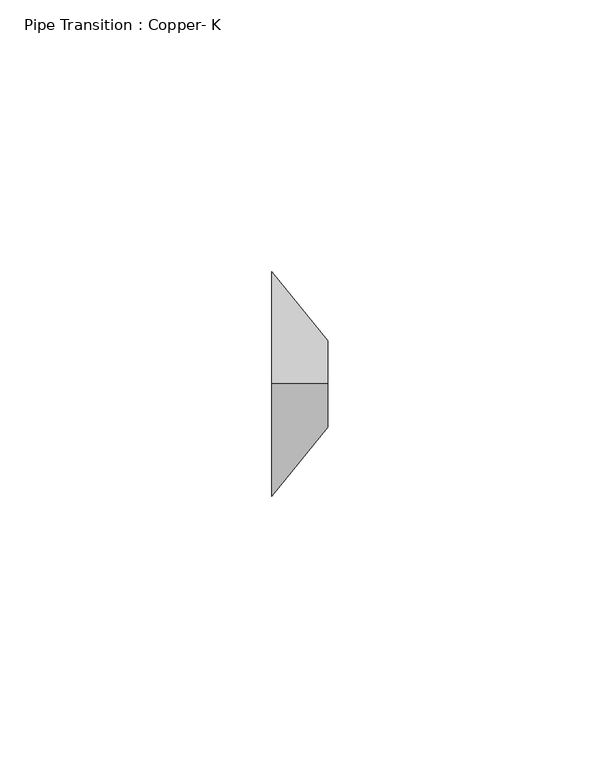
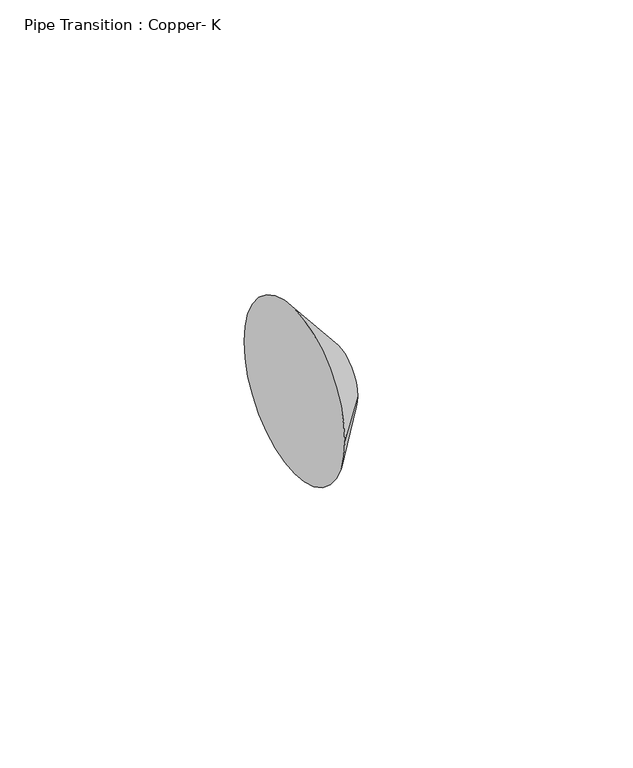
"""IFC4 building model written with IfcOpenShell, lengths in millimetres: pipe fitting geometry, Pipe Transition : Copper- K."""

import ifcopenshell
import ifcopenshell.guid

model = None  # the IFC model being written
_history = None  # IfcOwnerHistory: only IFC2X3 demands one
_inside = {}  # id of a spatial element -> (the spatial element, [elements in it])
_under = {}  # id of a project, library or spatial element -> (it, [spatial elements below it])
_declared = {}  # id of a project -> (the project, [libraries it declares])
_typed = {}  # id of a type object -> (the type object, [elements of that type])
_made_of = {}  # id of a material, layer set ... -> (it, [elements and type objects made of it])


def new_model(schema):
    """Start an empty IFC model of exactly this schema.

    Asked for "IFC4X3", IfcOpenShell would pick the latest addendum, in which some entities
    have other attributes; the version numbers below select the first issue.
    IFC2X3 requires an IfcOwnerHistory on every rooted entity: one is made here for all.
    """
    global model, _history
    if schema == "IFC4X3":
        model = ifcopenshell.file(schema_version=(4, 3, 0, 0))
    else:
        model = ifcopenshell.file(schema=schema)
    _inside.clear()
    _under.clear()
    _declared.clear()
    _typed.clear()
    _made_of.clear()
    _history = None
    if model.schema == "IFC2X3":
        org = make("IfcOrganization", Name="unknown")
        user = make(
            "IfcPersonAndOrganization",
            ThePerson=make("IfcPerson", FamilyName="unknown"),
            TheOrganization=org,
        )
        app = make(
            "IfcApplication",
            ApplicationDeveloper=org,
            Version="unknown",
            ApplicationFullName="unknown",
            ApplicationIdentifier="unknown",
        )
        _history = make(
            "IfcOwnerHistory",
            OwningUser=user,
            OwningApplication=app,
            ChangeAction="ADDED",
            CreationDate=0,
        )
    return model


def make(cls, **values):
    """One entity of the class cls with the attributes given. An attribute that is None is left unset."""
    return model.create_entity(
        cls, **{name: value for name, value in values.items() if value is not None}
    )


def rooted(cls, **values):
    """An entity with a GlobalId (a new one), such as an element, a storey or a relation."""
    return make(cls, GlobalId=ifcopenshell.guid.new(), OwnerHistory=_history, **values)


def si_unit(unit_type, name, prefix=None):
    """IfcSIUnit, for example si_unit("LENGTHUNIT", "METRE", prefix="MILLI")."""
    return make("IfcSIUnit", UnitType=unit_type, Prefix=prefix, Name=name)


def assignment(units):
    """IfcUnitAssignment: the units of a project."""
    return None if units is None else make("IfcUnitAssignment", Units=units)


def point(xyz):
    """IfcCartesianPoint."""
    return None if xyz is None else make("IfcCartesianPoint", Coordinates=xyz)


def direction(xyz):
    """IfcDirection."""
    return None if xyz is None else make("IfcDirection", DirectionRatios=xyz)


def frame(location, z_axis=None, x_axis=None):
    """IfcAxis2Placement3D, a coordinate frame: its origin and axes. An axis left out is left unset."""
    return make(
        "IfcAxis2Placement3D",
        Location=point(location),
        Axis=direction(z_axis),
        RefDirection=direction(x_axis),
    )


def origin():
    """The frame at (0, 0, 0) with its axes left unset."""
    return frame((0.0, 0.0, 0.0))


def place(relative_to, where):
    """IfcLocalPlacement: puts the frame where relative to a parent placement (None: the world)."""
    return make(
        "IfcLocalPlacement", PlacementRelTo=relative_to, RelativePlacement=where
    )


def context(
    kind, dimensions, precision=None, world=None, true_north=None, identifier=None
):
    """IfcGeometricRepresentationContext, for example the 3D "Model" context."""
    return make(
        "IfcGeometricRepresentationContext",
        ContextIdentifier=identifier,
        ContextType=kind,
        CoordinateSpaceDimension=dimensions,
        Precision=precision,
        WorldCoordinateSystem=world,
        TrueNorth=true_north,
    )


def project(units=None, contexts=None):
    """IfcProject with its units and contexts."""
    return rooted(
        "IfcProject",
        Name="project",
        RepresentationContexts=contexts,
        UnitsInContext=assignment(units),
    )


def spatial(cls, under=None, at=None, **own):
    """A site, building, storey or space (cls), placed at a placement, below another one or the project."""
    s = rooted(cls, ObjectPlacement=at, **own)
    if under is not None:
        _under.setdefault(under.id(), (under, []))[1].append(s)
    return s


def polyline(points):
    """IfcPolyline through the points."""
    return make("IfcPolyline", Points=[point(p) for p in points])


def circle_curve(where, radius):
    """IfcCircle in the frame where."""
    return make("IfcCircle", Position=where, Radius=radius)


def shape(context_of_items, identifier, shape_type, items):
    """IfcShapeRepresentation: the items that make up one representation, for example the "Body"."""
    return make(
        "IfcShapeRepresentation",
        ContextOfItems=context_of_items,
        RepresentationIdentifier=identifier,
        RepresentationType=shape_type,
        Items=items,
    )


def source(mapping_origin, context_of_items, identifier, shape_type, items):
    """IfcRepresentationMap: a shape defined once, which mapped items show again and again."""
    return make(
        "IfcRepresentationMap",
        MappingOrigin=mapping_origin,
        MappedRepresentation=shape(context_of_items, identifier, shape_type, items),
    )


def transform(
    local_origin,
    x_axis=None,
    y_axis=None,
    z_axis=None,
    scale=None,
    scale2=None,
    scale3=None,
    uniform=True,
):
    """IfcCartesianTransformationOperator3D, or its non-uniform kind. x_axis, y_axis, z_axis: its Axis1, 2, 3."""
    if uniform:
        return make(
            "IfcCartesianTransformationOperator3D",
            Axis1=direction(x_axis),
            Axis2=direction(y_axis),
            LocalOrigin=point(local_origin),
            Scale=scale,
            Axis3=direction(z_axis),
        )
    return make(
        "IfcCartesianTransformationOperator3DnonUniform",
        Axis1=direction(x_axis),
        Axis2=direction(y_axis),
        LocalOrigin=point(local_origin),
        Scale=scale,
        Axis3=direction(z_axis),
        Scale2=scale2,
        Scale3=scale3,
    )


def mapped(mapping_source, mapping_target):
    """IfcMappedItem: shows the shape of a source again, moved by a transform."""
    return make(
        "IfcMappedItem", MappingSource=mapping_source, MappingTarget=mapping_target
    )


def made_of(thing, what):
    """Note that an element or type object is made of a material, layer set ...; save() writes the relation."""
    if what is not None:
        _made_of.setdefault(what.id(), (what, []))[1].append(thing)
    return thing


def element(
    cls,
    number,
    at=None,
    inside=None,
    cuts=None,
    type_object=None,
    material=None,
    context=None,
    identifier="Body",
    shape_type=None,
    held_by="IfcProductDefinitionShape",
    body=None,
    shapes=None,
    **own,
):
    """One element of the class cls, such as IfcWall. Its Tag is "e" and its number.

    at: its placement. inside: the storey or other place that contains it. cuts: it is an
    opening in that element (IfcRelVoidsElement). A single representation is given by context,
    identifier, shape_type and body (its items); several are given by shapes. held_by: the class
    of the entity that holds the representations. save() writes the other relations.
    """
    e = rooted(cls, Tag="e%d" % number, ObjectPlacement=at, **own)
    if body is not None:
        shapes = [shape(context, identifier, shape_type, body)]
    if shapes is not None:
        e.Representation = make(held_by, Representations=shapes)
    if inside is not None:
        _inside.setdefault(inside.id(), (inside, []))[1].append(e)
    if cuts is not None:
        rooted(
            "IfcRelVoidsElement", RelatingBuildingElement=cuts, RelatedOpeningElement=e
        )
    if type_object is not None:
        _typed.setdefault(type_object.id(), (type_object, []))[1].append(e)
    return made_of(e, material)


def aggregate(whole, parts):
    """IfcRelAggregates: a whole, such as a stair, and the parts it consists of."""
    return rooted("IfcRelAggregates", RelatingObject=whole, RelatedObjects=parts)


def save(model, path):
    """Write the relations noted so far, then the file.

    IfcRelAggregates (storeys below a building ...), IfcRelContainedInSpatialStructure (elements
    in a storey), IfcRelDefinesByType, IfcRelAssociatesMaterial and IfcRelDeclares: one each for
    every whole, place, type object, material and project.
    """
    for whole, parts in _under.values():
        aggregate(whole, parts)
    for where, things in _inside.values():
        rooted(
            "IfcRelContainedInSpatialStructure",
            RelatedElements=things,
            RelatingStructure=where,
        )
    for kind, things in _typed.values():
        rooted("IfcRelDefinesByType", RelatedObjects=things, RelatingType=kind)
    for what, things in _made_of.values():
        rooted("IfcRelAssociatesMaterial", RelatedObjects=things, RelatingMaterial=what)
    for by, libraries in _declared.values():
        rooted("IfcRelDeclares", RelatingContext=by, RelatedDefinitions=libraries)
    model.write(path)


def plane_surface(at):
    """IfcPlane: the flat surface through the origin of the frame at, square to its z axis."""
    return make("IfcPlane", Position=at)


def revolved_surface(curve, axis_point, axis_direction):
    """IfcSurfaceOfRevolution: the curve turned about the line through axis_point along axis_direction."""
    return make(
        "IfcSurfaceOfRevolution",
        SweptCurve=make("IfcArbitraryOpenProfileDef", ProfileType="CURVE", Curve=curve),
        AxisPosition=make("IfcAxis1Placement", Location=point(axis_point), Axis=direction(axis_direction)),
    )


def advanced_brep(points, edges, surfaces, faces):
    """IfcAdvancedBrep: a solid bounded by faces that lie on surfaces and meet in shared edges.

    An edge is (start, end): straight between two places in points (the first is 0);
    or (start, end, curve); or (start, end, curve, False) where it runs against its curve.
    A face is (place in surfaces, loops), or (place, loops, False) where it looks against
    its surface's normal. A loop lists edges by number (the first is 1), with a minus sign
    where the edge is run from its end to its start. The first loop is the outer one.
    """
    corners = [point(p) for p in points]
    vertices = [make("IfcVertexPoint", VertexGeometry=c) for c in corners]
    made = []
    for start, end, *more in edges:
        made.append(
            make(
                "IfcEdgeCurve",
                EdgeStart=vertices[start],
                EdgeEnd=vertices[end],
                EdgeGeometry=more[0] if more else make("IfcPolyline", Points=[corners[start], corners[end]]),
                SameSense=more[1] if len(more) > 1 else True,
            )
        )
    hull = []
    for where, loops, *sense in faces:
        bounds = []
        for j, loop in enumerate(loops):
            ring = [make("IfcOrientedEdge", EdgeElement=made[abs(k) - 1], Orientation=k > 0) for k in loop]
            bounds.append(
                make(
                    "IfcFaceOuterBound" if j == 0 else "IfcFaceBound",
                    Bound=make("IfcEdgeLoop", EdgeList=ring),
                    Orientation=True,
                )
            )
        hull.append(make("IfcAdvancedFace", Bounds=bounds, FaceSurface=surfaces[where], SameSense=sense[0] if sense else True))
    return make("IfcAdvancedBrep", Outer=make("IfcClosedShell", CfsFaces=hull))


def pipe_transition_copper_k_6d118978(model_context):
    return source(origin(), model_context, "Body", "AdvancedBrep", [
        advanced_brep(
        [(10.31875, 0.0, 7.9375), (10.31875, -7.9375, 0.0), (10.31875, 0.0, -7.9375), (10.31875, 7.9375, 0.0), (0.0, 0.0, 20.6375), (0.0, 20.6375, 0.0), (0.0, 0.0, -20.6375), (0.0, -20.6375, 0.0)],
        [
            (0, 1, circle_curve(frame((10.31875, 0.0, 0.0), z_axis=(1.0, 0.0, 0.0), x_axis=(0.0, 0.0, 1.0)), 7.9375)),
            (1, 2, circle_curve(frame((10.31875, 0.0, 0.0), z_axis=(1.0, 0.0, 0.0), x_axis=(0.0, -1.0, 0.0)), 7.9375)),
            (2, 3, circle_curve(frame((10.31875, 0.0, 0.0), z_axis=(1.0, 0.0, 0.0), x_axis=(0.0, 0.0, -1.0)), 7.9375)),
            (3, 0, circle_curve(frame((10.31875, 0.0, 0.0), z_axis=(1.0, 0.0, 0.0), x_axis=(0.0, 1.0, 0.0)), 7.9375)),
            (4, 5, circle_curve(frame((0.0, 0.0, 0.0), z_axis=(-1.0, 0.0, 0.0), x_axis=(0.0, 1.0, 0.0)), 20.6375)),
            (5, 6, circle_curve(frame((0.0, 0.0, 0.0), z_axis=(-1.0, 0.0, 0.0), x_axis=(0.0, 0.0, -1.0)), 20.6375)),
            (6, 7, circle_curve(frame((0.0, 0.0, 0.0), z_axis=(-1.0, 0.0, 0.0), x_axis=(0.0, -1.0, 0.0)), 20.6375)),
            (7, 4, circle_curve(frame((0.0, 0.0, 0.0), z_axis=(-1.0, 0.0, 0.0), x_axis=(0.0, 0.0, 1.0)), 20.6375)),
            (7, 1),
            (0, 4),
            (6, 2),
            (5, 3),
        ],
        [
            plane_surface(frame((10.31875, 0.0, 0.0), z_axis=(1.0, 0.0, 0.0), x_axis=(0.0, -1.0, 0.0))),
            plane_surface(frame((0.0, 0.0, 0.0), z_axis=(-1.0, 0.0, 0.0), x_axis=(0.0, -1.0, 0.0))),
            revolved_surface(polyline([(10.31875, 0.0, 7.937500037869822), (0.0, 0.0, 20.6375)]), (16.7679688, 0.0, 0.0), (-1.0, 0.0, 0.0)),
            revolved_surface(polyline([(10.31875, -7.937500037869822, 0.0), (0.0, -20.6375, 0.0)]), (16.7679688, 0.0, 0.0), (-1.0, 0.0, 0.0)),
            revolved_surface(polyline([(10.31875, 0.0, -7.937500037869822), (0.0, 0.0, -20.6375)]), (16.7679688, 0.0, 0.0), (-1.0, 0.0, 0.0)),
            revolved_surface(polyline([(10.31875, 7.937500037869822, 0.0), (0.0, 20.6375, 0.0)]), (16.7679688, 0.0, 0.0), (-1.0, 0.0, 0.0)),
        ],
        [
            (0, [[1, 2, 3, 4]]),
            (1, [[5, 6, 7, 8]]),
            (2, [[-8, 9, -1, 10]]),
            (3, [[-7, 11, -2, -9]]),
            (4, [[-6, 12, -3, -11]]),
            (5, [[-5, -10, -4, -12]]),
        ],
    ),
        advanced_brep(
        [(10.31875, 0.0, 7.9375), (10.31875, -7.9375, 0.0), (10.31875, 0.0, -7.9375), (10.31875, 7.9375, 0.0), (0.0, 0.0, 20.6375), (0.0, 20.6375, 0.0), (0.0, 0.0, -20.6375), (0.0, -20.6375, 0.0)],
        [
            (0, 1, circle_curve(frame((10.31875, 0.0, 0.0), z_axis=(1.0, 0.0, 0.0), x_axis=(0.0, 0.0, 1.0)), 7.9375)),
            (1, 2, circle_curve(frame((10.31875, 0.0, 0.0), z_axis=(1.0, 0.0, 0.0), x_axis=(0.0, -1.0, 0.0)), 7.9375)),
            (2, 3, circle_curve(frame((10.31875, 0.0, 0.0), z_axis=(1.0, 0.0, -1.2689316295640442e-12), x_axis=(-1.2689873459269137e-12, 0.0, -1.0)), 7.9375)),
            (3, 0, circle_curve(frame((10.31875, 0.0, 0.0), z_axis=(1.0, 0.0, 0.0), x_axis=(0.0, 1.0, 0.0)), 7.9375)),
            (4, 5, circle_curve(frame((0.0, 0.0, 0.0), z_axis=(-1.0, 0.0, 0.0), x_axis=(0.0, 1.0, 0.0)), 20.6375)),
            (5, 6, circle_curve(frame((0.0, 0.0, 0.0), z_axis=(-1.0, 0.0, 1.2689316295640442e-12), x_axis=(-1.2689873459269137e-12, 0.0, -1.0)), 20.6375)),
            (6, 7, circle_curve(frame((0.0, 0.0, 0.0), z_axis=(-1.0, 0.0, 0.0), x_axis=(0.0, -1.0, 0.0)), 20.6375)),
            (7, 4, circle_curve(frame((0.0, 0.0, 0.0), z_axis=(-1.0, 0.0, 0.0), x_axis=(0.0, 0.0, 1.0)), 20.6375)),
            (7, 1),
            (0, 4),
            (6, 2),
            (5, 3),
        ],
        [
            plane_surface(frame((10.31875, 0.0, 0.0), z_axis=(1.0, 0.0, 0.0), x_axis=(0.0, -1.0, 0.0))),
            plane_surface(frame((0.0, 0.0, 0.0), z_axis=(-1.0, 0.0, 0.0), x_axis=(0.0, -1.0, 0.0))),
            revolved_surface(polyline([(10.31875, 0.0, 7.937500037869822), (0.0, 0.0, 20.6375)]), (16.7679688, 0.0, 0.0), (-1.0, 0.0, 0.0)),
            revolved_surface(polyline([(10.31875, -7.937500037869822, 0.0), (0.0, -20.6375, 0.0)]), (16.7679688, 0.0, 0.0), (-1.0, 0.0, 0.0)),
            revolved_surface(polyline([(10.31875, 0.0, -7.937499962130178), (-2.6187052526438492e-11, 0.0, -20.637500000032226)]), (16.7679687, 0.0, 0.0), (-1.0, 0.0, 1.2689316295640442e-12)),
            revolved_surface(polyline([(10.31875, 7.937499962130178, 0.0), (0.0, 20.6375, 0.0)]), (16.7679687, 0.0, 0.0), (-1.0, 0.0, 0.0)),
        ],
        [
            (0, [[1, 2, 3, 4]]),
            (1, [[5, 6, 7, 8]]),
            (2, [[-8, 9, -1, 10]]),
            (3, [[-7, 11, -2, -9]]),
            (4, [[-6, 12, -3, -11]]),
            (5, [[-5, -10, -4, -12]]),
        ],
    ),
    ])


if __name__ == "__main__":
    model = new_model("IFC4")
    model_context = context("Model", 3, world=origin())
    ifc_project = project(units=[si_unit("LENGTHUNIT", "METRE", prefix="MILLI")], contexts=[model_context])
    site = spatial("IfcSite", under=ifc_project)
    building = spatial("IfcBuilding", under=site)
    placement = place(None, origin())
    pipe_transition_copper_k_shape = pipe_transition_copper_k_6d118978(model_context)
    element("IfcPipeFitting", 1, ObjectType="Pipe Transition : Copper- K", at=placement, inside=building, context=model_context, shape_type="MappedRepresentation", body=[
        mapped(pipe_transition_copper_k_shape, transform((0.0, 0.0, 0.0), x_axis=(1.0, 0.0, 0.0), y_axis=(0.0, 1.0, 0.0), z_axis=(0.0, 0.0, 1.0))),
    ])
    save(model, "model.ifc")
